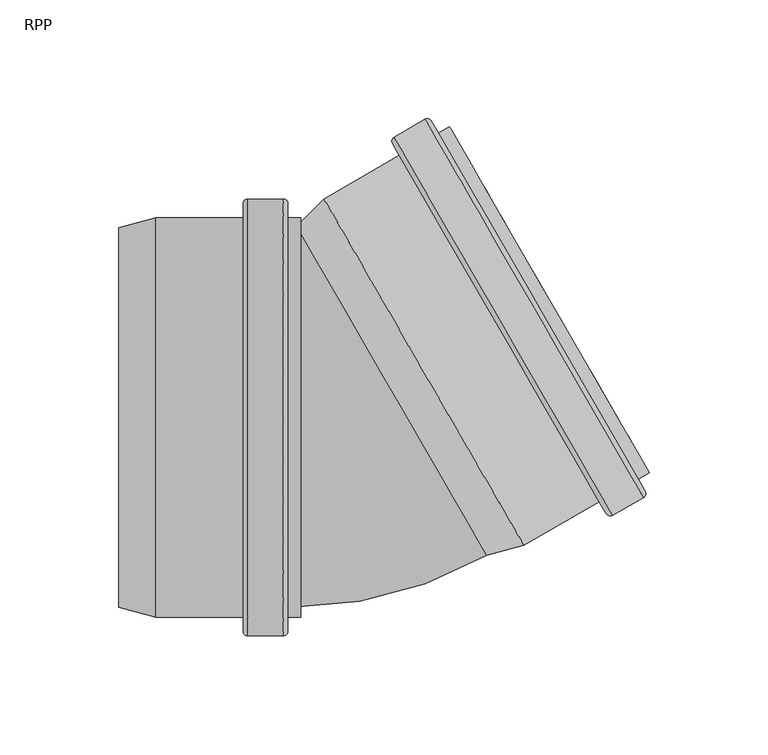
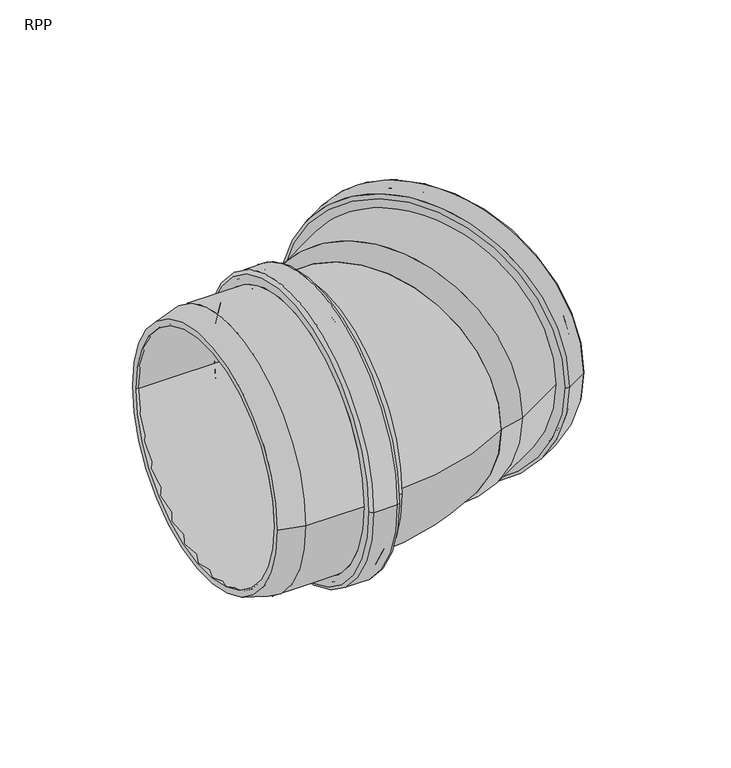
"""IFC4 building model written with IfcOpenShell, lengths in millimetres: pipe fitting geometry, RAUPIANO PLUS Bend : RPP."""

from ifc_helpers import new_model, si_unit, point, frame, origin, place, context, project, spatial, polyline, circle_curve, ellipse_curve, trimmed, source, transform, mapped, element, save
from ifc_brep_helpers import plane_surface, cylinder_surface, revolved_surface, advanced_brep


def rpp_96adb8f6(model_context):
    return source(origin(), model_context, "Body", "AdvancedBrep", [
        advanced_brep(
        [(-39.2077322, -80.3, 0.0), (-39.2077322, 80.3, 0.0), (-79.319674, 80.3, 0.0), (-79.319674, -80.3, 0.0), (-38.7077322, -88.1, 0.0), (-38.7077322, 88.1, 0.0), (-39.2077322, 87.6, 0.0), (-39.2077322, -87.6, 0.0), (-28.6077322, -88.1, 0.0), (-28.6077322, 88.1, 0.0), (-28.1077322, -87.6, 0.0), (-28.1077322, 87.6, 0.0), (-18.8077322, -80.3, 0.0), (-18.8077322, 80.3, 0.0), (-28.1077322, 80.3, 0.0), (-28.1077322, -80.3, 0.0), (-24.2077322, -84.2, 0.0), (-24.2077322, 84.2, 0.0), (-18.8077322, 84.2, 0.0), (-18.8077322, -84.2, 0.0), (-26.2077322, -92.0, 0.0), (-26.2077322, 92.0, 0.0), (-24.2077322, 90.0, 0.0), (-24.2077322, -90.0, 0.0), (-41.1077322, -92.0, 0.0), (-41.1077322, 92.0, 0.0), (-43.1077322, -90.0, 0.0), (-43.1077322, 90.0, 0.0), (-79.8331188, -84.2, 0.0), (-79.8331188, 84.2, 0.0), (-43.1077322, 84.2, 0.0), (-43.1077322, -84.2, 0.0), (-95.5077322, -80.0, 0.0), (-95.5077322, 80.0, 0.0), (-95.5077322, 75.9624229, 0.0), (-95.5077322, -75.9624229, 0.0)],
        [
            (0, 1, circle_curve(frame((-39.2077322, 0.0, 0.0), z_axis=(1.0, 0.0, 0.0), x_axis=(0.0, 1.0, 0.0)), 80.3)),
            (1, 2),
            (2, 3, circle_curve(frame((-79.319674, 0.0, 0.0), z_axis=(-1.0, 0.0, 0.0), x_axis=(0.0, 1.0, 0.0)), 80.3)),
            (3, 0),
            (4, 5, circle_curve(frame((-38.7077322, 0.0, 0.0), z_axis=(1.0, 0.0, 0.0), x_axis=(0.0, 1.0, 0.0)), 88.1)),
            (5, 6, circle_curve(frame((-38.7077322, 87.6, 0.0), z_axis=(0.0, 0.0, 1.0), x_axis=(0.0, -1.0, 0.0)), 0.5)),
            (6, 7, circle_curve(frame((-39.2077322, 0.0, 0.0), z_axis=(-1.0, 0.0, 0.0), x_axis=(0.0, 1.0, 0.0)), 87.6)),
            (7, 4, circle_curve(frame((-38.7077322, -87.6, 0.0), z_axis=(0.0, 0.0, 1.0), x_axis=(0.0, 1.0, 0.0)), 0.5)),
            (8, 9, circle_curve(frame((-28.6077322, 0.0, 0.0), z_axis=(1.0, 0.0, 0.0), x_axis=(0.0, 1.0, 0.0)), 88.1)),
            (9, 5),
            (4, 8),
            (10, 11, circle_curve(frame((-28.1077322, 0.0, 0.0), z_axis=(1.0, 0.0, 0.0), x_axis=(0.0, 1.0, 0.0)), 87.6)),
            (11, 9, circle_curve(frame((-28.6077322, 87.6, 0.0), z_axis=(0.0, 0.0, 1.0), x_axis=(0.0, -1.0, 0.0)), 0.5)),
            (8, 10, circle_curve(frame((-28.6077322, -87.6, 0.0), z_axis=(0.0, 0.0, 1.0), x_axis=(0.0, 1.0, 0.0)), 0.5)),
            (12, 13, circle_curve(frame((-18.8077322, 0.0, 0.0), z_axis=(1.0, 0.0, 0.0), x_axis=(0.0, 1.0, 0.0)), 80.3)),
            (13, 14),
            (14, 15, circle_curve(frame((-28.1077322, 0.0, 0.0), z_axis=(-1.0, 0.0, 0.0), x_axis=(0.0, 1.0, 0.0)), 80.3)),
            (15, 12),
            (16, 17, circle_curve(frame((-24.2077322, 0.0, 0.0), z_axis=(1.0, 0.0, 0.0), x_axis=(0.0, 1.0, 0.0)), 84.2)),
            (17, 18),
            (18, 19, circle_curve(frame((-18.8077322, 0.0, 0.0), z_axis=(-1.0, 0.0, 0.0), x_axis=(0.0, 1.0, 0.0)), 84.2)),
            (19, 16),
            (20, 21, circle_curve(frame((-26.2077322, 0.0, 0.0), z_axis=(1.0, 0.0, 0.0), x_axis=(0.0, 1.0, 0.0)), 92.0)),
            (21, 22, circle_curve(frame((-26.2077322, 90.0, 0.0), z_axis=(0.0, 0.0, -1.0), x_axis=(0.0, -1.0, 0.0)), 2.0)),
            (22, 23, circle_curve(frame((-24.2077322, 0.0, 0.0), z_axis=(-1.0, 0.0, 0.0), x_axis=(0.0, 1.0, 0.0)), 90.0)),
            (23, 20, circle_curve(frame((-26.2077322, -90.0, 0.0), z_axis=(0.0, 0.0, -1.0), x_axis=(0.0, 1.0, 0.0)), 2.0)),
            (24, 25, circle_curve(frame((-41.1077322, 0.0, 0.0), z_axis=(1.0, 0.0, 0.0), x_axis=(0.0, 1.0, 0.0)), 92.0)),
            (25, 21),
            (20, 24),
            (26, 27, circle_curve(frame((-43.1077322, 0.0, 0.0), z_axis=(1.0, 0.0, 0.0), x_axis=(0.0, 1.0, 0.0)), 90.0)),
            (27, 25, circle_curve(frame((-41.1077322, 90.0, 0.0), z_axis=(0.0, 0.0, -1.0), x_axis=(0.0, -1.0, 0.0)), 2.0)),
            (24, 26, circle_curve(frame((-41.1077322, -90.0, 0.0), z_axis=(0.0, 0.0, -1.0), x_axis=(0.0, 1.0, 0.0)), 2.0)),
            (28, 29, circle_curve(frame((-79.8331188, 0.0, 0.0), z_axis=(1.0, 0.0, 0.0), x_axis=(0.0, 1.0, 0.0)), 84.2)),
            (29, 30),
            (30, 31, circle_curve(frame((-43.1077322, 0.0, 0.0), z_axis=(-1.0, 0.0, 0.0), x_axis=(0.0, 1.0, 0.0)), 84.2)),
            (31, 28),
            (32, 33, circle_curve(frame((-95.5077322, 0.0, 0.0), z_axis=(1.0, 0.0, 0.0), x_axis=(0.0, 1.0, 0.0)), 80.0)),
            (33, 29),
            (28, 32),
            (2, 34),
            (34, 35, circle_curve(frame((-95.5077322, 0.0, 0.0), z_axis=(-1.0, 0.0, 0.0), x_axis=(0.0, 1.0, 0.0)), 75.9624229)),
            (35, 3),
            (1, 0, circle_curve(frame((-39.2077322, 0.0, 0.0), z_axis=(1.0, 0.0, 0.0), x_axis=(0.0, -1.0, 0.0)), 80.3)),
            (3, 2, circle_curve(frame((-79.319674, 0.0, 0.0), z_axis=(-1.0, 0.0, 0.0), x_axis=(0.0, -1.0, 0.0)), 80.3)),
            (6, 7, circle_curve(frame((-39.2077322, 0.0, 0.0), z_axis=(1.0, 0.0, 0.0), x_axis=(0.0, -1.0, 0.0)), 87.6)),
            (5, 4, circle_curve(frame((-38.7077322, 0.0, 0.0), z_axis=(1.0, 0.0, 0.0), x_axis=(0.0, -1.0, 0.0)), 88.1)),
            (9, 8, circle_curve(frame((-28.6077322, 0.0, 0.0), z_axis=(1.0, 0.0, 0.0), x_axis=(0.0, -1.0, 0.0)), 88.1)),
            (11, 10, circle_curve(frame((-28.1077322, 0.0, 0.0), z_axis=(1.0, 0.0, 0.0), x_axis=(0.0, -1.0, 0.0)), 87.6)),
            (14, 15, circle_curve(frame((-28.1077322, 0.0, 0.0), z_axis=(1.0, 0.0, 0.0), x_axis=(0.0, -1.0, 0.0)), 80.3)),
            (13, 12, circle_curve(frame((-18.8077322, 0.0, 0.0), z_axis=(1.0, 0.0, 0.0), x_axis=(0.0, -1.0, 0.0)), 80.3)),
            (18, 19, circle_curve(frame((-18.8077322, 0.0, 0.0), z_axis=(1.0, 0.0, 0.0), x_axis=(0.0, -1.0, 0.0)), 84.2)),
            (17, 16, circle_curve(frame((-24.2077322, 0.0, 0.0), z_axis=(1.0, 0.0, 0.0), x_axis=(0.0, -1.0, 0.0)), 84.2)),
            (22, 23, circle_curve(frame((-24.2077322, 0.0, 0.0), z_axis=(1.0, 0.0, 0.0), x_axis=(0.0, -1.0, 0.0)), 90.0)),
            (21, 20, circle_curve(frame((-26.2077322, 0.0, 0.0), z_axis=(1.0, 0.0, 0.0), x_axis=(0.0, -1.0, 0.0)), 92.0)),
            (25, 24, circle_curve(frame((-41.1077322, 0.0, 0.0), z_axis=(1.0, 0.0, 0.0), x_axis=(0.0, -1.0, 0.0)), 92.0)),
            (27, 26, circle_curve(frame((-43.1077322, 0.0, 0.0), z_axis=(1.0, 0.0, 0.0), x_axis=(0.0, -1.0, 0.0)), 90.0)),
            (30, 31, circle_curve(frame((-43.1077322, 0.0, 0.0), z_axis=(1.0, 0.0, 0.0), x_axis=(0.0, -1.0, 0.0)), 84.2)),
            (29, 28, circle_curve(frame((-79.8331188, 0.0, 0.0), z_axis=(1.0, 0.0, 0.0), x_axis=(0.0, -1.0, 0.0)), 84.2)),
            (33, 32, circle_curve(frame((-95.5077322, 0.0, 0.0), z_axis=(1.0, 0.0, 0.0), x_axis=(0.0, -1.0, 0.0)), 80.0)),
            (34, 35, circle_curve(frame((-95.5077322, 0.0, 0.0), z_axis=(1.0, 0.0, 0.0), x_axis=(0.0, -1.0, 0.0)), 75.9624229)),
        ],
        [
            revolved_surface(polyline([(-79.319674, 80.3, 0.0), (-39.2077322, 80.3, 0.0)]), (-95.5077322, 0.0, 0.0), (-1.0, 0.0, 0.0)),
            revolved_surface(trimmed(ellipse_curve(frame((-38.7077322, 87.6, 0.0), z_axis=(0.0, 0.0, -1.0), x_axis=(0.0, -1.0, 0.0)), 0.5, 0.5), [point((-39.2077322, 87.6, 0.0))], [point((-38.7077322, 88.1, 0.0))], True, "CARTESIAN"), (-95.5077322, 0.0, 0.0), (-1.0, 0.0, 0.0)),
            revolved_surface(polyline([(-38.7077322, 88.1, 0.0), (-28.6077322, 88.1, 0.0)]), (-95.5077322, 0.0, 0.0), (-1.0, 0.0, 0.0)),
            revolved_surface(trimmed(ellipse_curve(frame((-28.6077322, 87.6, 0.0), z_axis=(0.0, 0.0, -1.0), x_axis=(0.0, -1.0, 0.0)), 0.5, 0.5), [point((-28.6077322, 88.1, 0.0))], [point((-28.1077322, 87.6, 0.0))], True, "CARTESIAN"), (-95.5077322, 0.0, 0.0), (-1.0, 0.0, 0.0)),
            revolved_surface(polyline([(-28.1077322, 80.3, 0.0), (-18.807732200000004, 80.3, 0.0)]), (-95.5077322, 0.0, 0.0), (-1.0, 0.0, 0.0)),
            cylinder_surface(frame((-95.5077322, 0.0, 0.0), z_axis=(-1.0, 0.0, 0.0), x_axis=(0.0, 1.0, 0.0)), 84.2),
            revolved_surface(trimmed(ellipse_curve(frame((-26.2077322, 90.0, 0.0), z_axis=(0.0, 0.0, 1.0), x_axis=(0.0, -1.0, 0.0)), 2.0, 2.0), [point((-24.2077322, 90.0, 0.0))], [point((-26.2077322, 92.0, 0.0))], True, "CARTESIAN"), (-95.5077322, 0.0, 0.0), (-1.0, 0.0, 0.0)),
            cylinder_surface(frame((-95.5077322, 0.0, 0.0), z_axis=(-1.0, 0.0, 0.0), x_axis=(0.0, 1.0, 0.0)), 92.0),
            revolved_surface(trimmed(ellipse_curve(frame((-41.1077322, 90.0, 0.0), z_axis=(0.0, 0.0, 1.0), x_axis=(0.0, -1.0, 0.0)), 2.0, 2.0), [point((-41.1077322, 92.0, 0.0))], [point((-43.1077322, 90.0, 0.0))], True, "CARTESIAN"), (-95.5077322, 0.0, 0.0), (-1.0, 0.0, 0.0)),
            revolved_surface(polyline([(-79.8331188, 84.2, 0.0), (-95.5077322, 80.0, 0.0)]), (-95.5077322, 0.0, 0.0), (-1.0, 0.0, 0.0)),
            revolved_surface(polyline([(-95.5077322, 75.9624229, 0.0), (-79.319674, 80.3, 0.0)]), (-95.5077322, 0.0, 0.0), (-1.0, 0.0, 0.0)),
            revolved_surface(polyline([(-79.319674, -80.3, 0.0), (-39.2077322, -80.3, 0.0)]), (-95.5077322, 0.0, 0.0), (-1.0, 0.0, 0.0)),
            plane_surface(frame((-39.2077322, 0.0, 0.0), z_axis=(1.0, 0.0, 0.0), x_axis=(0.0, -1.0, 0.0))),
            revolved_surface(trimmed(ellipse_curve(frame((-38.7077322, -87.6, 0.0), z_axis=(0.0, 0.0, 1.0), x_axis=(0.0, 1.0, 0.0)), 0.5, 0.5), [point((-39.2077322, -87.6, 0.0))], [point((-38.7077322, -88.1, 0.0))], True, "CARTESIAN"), (-95.5077322, 0.0, 0.0), (-1.0, 0.0, 0.0)),
            revolved_surface(polyline([(-38.7077322, -88.1, 0.0), (-28.6077322, -88.1, 0.0)]), (-95.5077322, 0.0, 0.0), (-1.0, 0.0, 0.0)),
            revolved_surface(trimmed(ellipse_curve(frame((-28.6077322, -87.6, 0.0), z_axis=(0.0, 0.0, 1.0), x_axis=(0.0, 1.0, 0.0)), 0.5, 0.5), [point((-28.6077322, -88.1, 0.0))], [point((-28.1077322, -87.6, 0.0))], True, "CARTESIAN"), (-95.5077322, 0.0, 0.0), (-1.0, 0.0, 0.0)),
            plane_surface(frame((-28.1077322, 0.0, 0.0), z_axis=(-1.0, 0.0, 0.0), x_axis=(0.0, -1.0, 0.0))),
            revolved_surface(polyline([(-28.1077322, -80.3, 0.0), (-18.807732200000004, -80.3, 0.0)]), (-95.5077322, 0.0, 0.0), (-1.0, 0.0, 0.0)),
            plane_surface(frame((-18.8077322, 0.0, 0.0), z_axis=(1.0, 0.0, 0.0), x_axis=(0.0, -1.0, 0.0))),
            cylinder_surface(frame((-95.5077322, 0.0, 0.0), z_axis=(-1.0, 0.0, 0.0), x_axis=(0.0, -1.0, 0.0)), 84.2),
            plane_surface(frame((-24.2077322, 0.0, 0.0), z_axis=(1.0, 0.0, 0.0), x_axis=(0.0, -1.0, 0.0))),
            revolved_surface(trimmed(ellipse_curve(frame((-26.2077322, -90.0, 0.0), z_axis=(0.0, 0.0, -1.0), x_axis=(0.0, 1.0, 0.0)), 2.0, 2.0), [point((-24.2077322, -90.0, 0.0))], [point((-26.2077322, -92.0, 0.0))], True, "CARTESIAN"), (-95.5077322, 0.0, 0.0), (-1.0, 0.0, 0.0)),
            cylinder_surface(frame((-95.5077322, 0.0, 0.0), z_axis=(-1.0, 0.0, 0.0), x_axis=(0.0, -1.0, 0.0)), 92.0),
            revolved_surface(trimmed(ellipse_curve(frame((-41.1077322, -90.0, 0.0), z_axis=(0.0, 0.0, -1.0), x_axis=(0.0, 1.0, 0.0)), 2.0, 2.0), [point((-41.1077322, -92.0, 0.0))], [point((-43.1077322, -90.0, 0.0))], True, "CARTESIAN"), (-95.5077322, 0.0, 0.0), (-1.0, 0.0, 0.0)),
            plane_surface(frame((-43.1077322, 0.0, 0.0), z_axis=(-1.0, 0.0, 0.0), x_axis=(0.0, -1.0, 0.0))),
            revolved_surface(polyline([(-79.8331188, -84.2, 0.0), (-95.5077322, -80.0, 0.0)]), (-95.5077322, 0.0, 0.0), (-1.0, 0.0, 0.0)),
            plane_surface(frame((-95.5077322, 0.0, 0.0), z_axis=(-1.0, 0.0, 0.0), x_axis=(0.0, -1.0, 0.0))),
            revolved_surface(polyline([(-95.5077322, -75.9624229, 0.0), (-79.319674, -80.3, 0.0)]), (-95.5077322, 0.0, 0.0), (-1.0, 0.0, 0.0)),
        ],
        [
            (0, [[1, 2, 3, 4]]),
            (1, [[5, 6, 7, 8]]),
            (2, [[9, 10, -5, 11]]),
            (3, [[12, 13, -9, 14]]),
            (4, [[15, 16, 17, 18]]),
            (5, [[19, 20, 21, 22]]),
            (6, [[23, 24, 25, 26]]),
            (7, [[27, 28, -23, 29]]),
            (8, [[30, 31, -27, 32]]),
            (5, [[33, 34, 35, 36]]),
            (9, [[37, 38, -33, 39]]),
            (10, [[-3, 40, 41, 42]]),
            (11, [[43, -4, 44, -2]]),
            (12, [[45, -7], [-43, -1]]),
            (13, [[46, -8, -45, -6]]),
            (14, [[47, -11, -46, -10]]),
            (15, [[48, -14, -47, -13]]),
            (16, [[-48, -12], [49, -17]]),
            (17, [[50, -18, -49, -16]]),
            (18, [[51, -21], [-50, -15]]),
            (19, [[52, -22, -51, -20]]),
            (20, [[53, -25], [-52, -19]]),
            (21, [[54, -26, -53, -24]]),
            (22, [[55, -29, -54, -28]]),
            (23, [[56, -32, -55, -31]]),
            (24, [[-56, -30], [57, -35]]),
            (19, [[58, -36, -57, -34]]),
            (25, [[59, -39, -58, -38]]),
            (26, [[-59, -37], [60, -41]]),
            (27, [[-44, -42, -60, -40]]),
        ],
    ),
        advanced_brep(
        [(57.4734793, -54.5315219, 0.0), (-18.4889436, 77.039254, 0.0), (-6.6384626, 88.8897351, 0.0), (73.6615374, -50.1939448, 0.0), (75.1668812, -53.8281662, 0.0), (-9.0331188, 92.0105118, 0.0), (-20.5077322, 80.5358984, 0.0), (59.4922678, -58.0281662, 0.0), (106.971999, -35.4654729, 0.0), (22.771999, 110.3732051, 0.0), (125.5078283, -33.7704711, 0.0), (33.5078283, 125.5782032, 0.0), (20.6040498, 118.1282032, 0.0), (112.6040498, -41.2204711, 0.0), (128.0164163, -23.3154729, 0.0), (43.8164163, 122.5232051, 0.0), (39.1398791, 119.8232051, 0.0), (123.3398791, -26.0154729, 0.0), (118.0123801, -24.5879738, 0.0), (37.7123801, 114.495706, 0.0), (45.7664163, 119.145706, 0.0), (126.0664163, -19.9379738, 0.0), (112.7325108, -36.642972, 0.0), (24.6325108, 115.9507042, 0.0), (33.3793673, 121.0007042, 0.0), (121.4793673, -31.592972, 0.0), (28.0994981, 108.945706, 0.0), (108.3994981, -30.1379738, 0.0), (19.871999, 115.3961524, 0.0), (109.871999, -40.4884203, 0.0), (126.2398791, -31.0384203, 0.0), (36.2398791, 124.8461524, 0.0), (34.0623801, 120.8176915, 0.0), (121.6623801, -30.9099593, 0.0), (112.0494981, -36.4599593, 0.0), (24.4494981, 115.2676915, 0.0)],
        [
            (0, 1, circle_curve(frame((19.4922678, 11.2538661, 0.0), z_axis=(-0.8660254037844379, -0.5000000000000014, 0.0), x_axis=(-0.5000000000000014, 0.8660254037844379, 0.0)), 75.9624229)),
            (1, 2),
            (2, 3, circle_curve(frame((33.5115374, 19.3478951, 0.0), z_axis=(0.8660254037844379, 0.5000000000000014, 0.0), x_axis=(-0.5000000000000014, 0.8660254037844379, 0.0)), 80.3)),
            (3, 0),
            (4, 5, circle_curve(frame((33.0668812, 19.0911728, 0.0), z_axis=(-0.8660254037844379, -0.5000000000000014, 0.0), x_axis=(-0.5000000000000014, 0.8660254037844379, 0.0)), 84.2)),
            (5, 6),
            (6, 7, circle_curve(frame((19.4922678, 11.2538661, 0.0), z_axis=(0.8660254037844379, 0.5000000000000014, 0.0), x_axis=(-0.5000000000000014, 0.8660254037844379, 0.0)), 80.0)),
            (7, 4),
            (8, 9, circle_curve(frame((64.871999, 37.4538661, 0.0), z_axis=(-0.8660254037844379, -0.5000000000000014, 0.0), x_axis=(-0.5000000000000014, 0.8660254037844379, 0.0)), 84.2)),
            (9, 5),
            (4, 8),
            (10, 11, circle_curve(frame((79.5078283, 45.9038661, 0.0), z_axis=(-0.8660254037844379, -0.5000000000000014, 0.0), x_axis=(-0.5000000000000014, 0.8660254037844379, 0.0)), 92.0)),
            (11, 12),
            (12, 13, circle_curve(frame((66.6040498, 38.4538661, 0.0), z_axis=(0.8660254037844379, 0.5000000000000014, 0.0), x_axis=(-0.5000000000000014, 0.8660254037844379, 0.0)), 92.0)),
            (13, 10),
            (14, 15, circle_curve(frame((85.9164163, 49.6038661, 0.0), z_axis=(-0.8660254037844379, -0.5000000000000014, 0.0), x_axis=(-0.5000000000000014, 0.8660254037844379, 0.0)), 84.2)),
            (15, 16),
            (16, 17, circle_curve(frame((81.2398791, 46.9038661, 0.0), z_axis=(0.8660254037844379, 0.5000000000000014, 0.0), x_axis=(-0.5000000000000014, 0.8660254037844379, 0.0)), 84.2)),
            (17, 14),
            (18, 19, circle_curve(frame((77.8623801, 44.9538661, 0.0), z_axis=(-0.8660254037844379, -0.5000000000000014, 0.0), x_axis=(-0.5000000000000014, 0.8660254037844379, 0.0)), 80.3)),
            (19, 20),
            (20, 21, circle_curve(frame((85.9164163, 49.6038661, 0.0), z_axis=(0.8660254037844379, 0.5000000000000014, 0.0), x_axis=(-0.5000000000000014, 0.8660254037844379, 0.0)), 80.3)),
            (21, 18),
            (22, 23, circle_curve(frame((68.6825108, 39.6538661, 0.0), z_axis=(-0.8660254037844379, -0.5000000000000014, 0.0), x_axis=(-0.5000000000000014, 0.8660254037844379, 0.0)), 88.1)),
            (23, 24),
            (24, 25, circle_curve(frame((77.4293673, 44.7038661, 0.0), z_axis=(0.8660254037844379, 0.5000000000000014, 0.0), x_axis=(-0.5000000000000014, 0.8660254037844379, 0.0)), 88.1)),
            (25, 22),
            (2, 26),
            (26, 27, circle_curve(frame((68.2494981, 39.4038661, 0.0), z_axis=(0.8660254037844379, 0.5000000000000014, 0.0), x_axis=(-0.5000000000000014, 0.8660254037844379, 0.0)), 80.3)),
            (27, 3),
            (1, 0, circle_curve(frame((19.4922678, 11.2538661, 0.0), z_axis=(-0.8660254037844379, -0.5000000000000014, 0.0), x_axis=(0.5000000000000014, -0.8660254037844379, 0.0)), 75.9624229)),
            (3, 2, circle_curve(frame((33.5115374, 19.3478951, 0.0), z_axis=(0.8660254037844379, 0.5000000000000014, 0.0), x_axis=(0.5000000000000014, -0.8660254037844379, 0.0)), 80.3)),
            (6, 7, circle_curve(frame((19.4922678, 11.2538661, 0.0), z_axis=(-0.8660254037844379, -0.5000000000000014, 0.0), x_axis=(0.5000000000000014, -0.8660254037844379, 0.0)), 80.0)),
            (5, 4, circle_curve(frame((33.0668812, 19.0911728, 0.0), z_axis=(-0.8660254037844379, -0.5000000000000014, 0.0), x_axis=(0.5000000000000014, -0.8660254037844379, 0.0)), 84.2)),
            (9, 8, circle_curve(frame((64.871999, 37.4538661, 0.0), z_axis=(-0.8660254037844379, -0.5000000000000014, 0.0), x_axis=(0.5000000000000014, -0.8660254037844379, 0.0)), 84.2)),
            (28, 29, circle_curve(frame((64.871999, 37.4538661, 0.0), z_axis=(-0.8660254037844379, -0.5000000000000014, 0.0), x_axis=(0.5000000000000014, -0.8660254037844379, 0.0)), 90.0)),
            (29, 28, circle_curve(frame((64.871999, 37.4538661, 0.0), z_axis=(-0.8660254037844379, -0.5000000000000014, 0.0), x_axis=(-0.5000000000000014, 0.8660254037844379, 0.0)), 90.0)),
            (11, 10, circle_curve(frame((79.5078283, 45.9038661, 0.0), z_axis=(-0.8660254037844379, -0.5000000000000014, 0.0), x_axis=(0.5000000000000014, -0.8660254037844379, 0.0)), 92.0)),
            (13, 12, circle_curve(frame((66.6040498, 38.4538661, 0.0), z_axis=(0.8660254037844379, 0.5000000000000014, 0.0), x_axis=(0.5000000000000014, -0.8660254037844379, 0.0)), 92.0)),
            (30, 31, circle_curve(frame((81.2398791, 46.9038661, 0.0), z_axis=(0.8660254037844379, 0.5000000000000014, 0.0), x_axis=(0.5000000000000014, -0.8660254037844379, 0.0)), 90.0)),
            (31, 30, circle_curve(frame((81.2398791, 46.9038661, 0.0), z_axis=(0.8660254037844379, 0.5000000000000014, 0.0), x_axis=(-0.5000000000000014, 0.8660254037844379, 0.0)), 90.0)),
            (16, 17, circle_curve(frame((81.2398791, 46.9038661, 0.0), z_axis=(-0.8660254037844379, -0.5000000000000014, 0.0), x_axis=(0.5000000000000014, -0.8660254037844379, 0.0)), 84.2)),
            (15, 14, circle_curve(frame((85.9164163, 49.6038661, 0.0), z_axis=(-0.8660254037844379, -0.5000000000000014, 0.0), x_axis=(0.5000000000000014, -0.8660254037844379, 0.0)), 84.2)),
            (20, 21, circle_curve(frame((85.9164163, 49.6038661, 0.0), z_axis=(-0.8660254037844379, -0.5000000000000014, 0.0), x_axis=(0.5000000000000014, -0.8660254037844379, 0.0)), 80.3)),
            (19, 18, circle_curve(frame((77.8623801, 44.9538661, 0.0), z_axis=(-0.8660254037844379, -0.5000000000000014, 0.0), x_axis=(0.5000000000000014, -0.8660254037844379, 0.0)), 80.3)),
            (32, 33, circle_curve(frame((77.8623801, 44.9538661, 0.0), z_axis=(-0.8660254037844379, -0.5000000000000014, 0.0), x_axis=(0.5000000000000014, -0.8660254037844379, 0.0)), 87.6)),
            (33, 32, circle_curve(frame((77.8623801, 44.9538661, 0.0), z_axis=(-0.8660254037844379, -0.5000000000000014, 0.0), x_axis=(-0.5000000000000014, 0.8660254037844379, 0.0)), 87.6)),
            (23, 22, circle_curve(frame((68.6825108, 39.6538661, 0.0), z_axis=(-0.8660254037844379, -0.5000000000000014, 0.0), x_axis=(0.5000000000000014, -0.8660254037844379, 0.0)), 88.1)),
            (25, 24, circle_curve(frame((77.4293673, 44.7038661, 0.0), z_axis=(0.8660254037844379, 0.5000000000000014, 0.0), x_axis=(0.5000000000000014, -0.8660254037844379, 0.0)), 88.1)),
            (34, 35, circle_curve(frame((68.2494981, 39.4038661, 0.0), z_axis=(0.8660254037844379, 0.5000000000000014, 0.0), x_axis=(0.5000000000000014, -0.8660254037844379, 0.0)), 87.6)),
            (35, 34, circle_curve(frame((68.2494981, 39.4038661, 0.0), z_axis=(0.8660254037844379, 0.5000000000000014, 0.0), x_axis=(-0.5000000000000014, 0.8660254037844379, 0.0)), 87.6)),
            (26, 27, circle_curve(frame((68.2494981, 39.4038661, 0.0), z_axis=(-0.8660254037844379, -0.5000000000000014, 0.0), x_axis=(0.5000000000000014, -0.8660254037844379, 0.0)), 80.3)),
            (12, 28, circle_curve(frame((21.6040498, 116.3961524, 0.0), z_axis=(0.0, 0.0, 1.0000000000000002), x_axis=(0.5000000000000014, -0.8660254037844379, 0.0)), 2.0)),
            (29, 13, circle_curve(frame((111.6040498, -39.4884203, 0.0), z_axis=(0.0, 0.0, 1.0000000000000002), x_axis=(-0.5000000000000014, 0.8660254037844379, 0.0)), 2.0)),
            (31, 11, circle_curve(frame((34.5078283, 123.8461524, 0.0), z_axis=(0.0, 0.0, 1.0000000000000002), x_axis=(0.5000000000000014, -0.8660254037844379, 0.0)), 2.0)),
            (10, 30, circle_curve(frame((124.5078283, -32.0384203, 0.0), z_axis=(0.0, 0.0, 1.0000000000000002), x_axis=(-0.5000000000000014, 0.8660254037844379, 0.0)), 2.0)),
            (24, 32, circle_curve(frame((33.6293673, 120.5676915, 0.0), z_axis=(0.0, 0.0, -1.0000000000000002), x_axis=(0.5000000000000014, -0.8660254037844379, 0.0)), 0.5)),
            (33, 25, circle_curve(frame((121.2293673, -31.1599593, 0.0), z_axis=(0.0, 0.0, -1.0000000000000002), x_axis=(-0.5000000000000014, 0.8660254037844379, 0.0)), 0.5)),
            (35, 23, circle_curve(frame((24.8825108, 115.5176915, 0.0), z_axis=(0.0, 0.0, -1.0000000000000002), x_axis=(0.5000000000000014, -0.8660254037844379, 0.0)), 0.5)),
            (22, 34, circle_curve(frame((112.4825108, -36.2099593, 0.0), z_axis=(0.0, 0.0, -1.0000000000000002), x_axis=(-0.5000000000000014, 0.8660254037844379, 0.0)), 0.5)),
        ],
        [
            revolved_surface(polyline([(-6.6384626, 88.8897351, 0.0), (-18.4889436, 77.039254, 0.0)]), (19.4922678, 11.2538661, 0.0), (0.8660254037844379, 0.5000000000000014, 0.0)),
            revolved_surface(polyline([(-20.5077322, 80.5358984, 0.0), (-9.0331188, 92.0105118, 0.0)]), (19.4922678, 11.2538661, 0.0), (0.8660254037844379, 0.5000000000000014, 0.0)),
            cylinder_surface(frame((19.4922678, 11.2538661, 0.0), z_axis=(0.8660254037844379, 0.5000000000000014, 0.0), x_axis=(-0.5000000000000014, 0.8660254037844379, 0.0)), 84.2),
            cylinder_surface(frame((19.4922678, 11.2538661, 0.0), z_axis=(0.8660254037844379, 0.5000000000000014, 0.0), x_axis=(-0.5000000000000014, 0.8660254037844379, 0.0)), 92.0),
            revolved_surface(polyline([(45.766416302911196, 119.14570604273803, 0.0), (37.712380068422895, 114.49570605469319, 0.0)]), (19.4922678, 11.2538661, 0.0), (0.8660254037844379, 0.5000000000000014, 0.0)),
            revolved_surface(polyline([(33.37936731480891, 121.00070417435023, 0.0), (24.632510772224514, 115.95070419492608, 0.0)]), (19.4922678, 11.2538661, 0.0), (0.8660254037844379, 0.5000000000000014, 0.0)),
            revolved_surface(polyline([(28.099498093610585, 108.94570605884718, 0.0), (-6.638462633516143, 88.88973508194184, 0.0)]), (19.4922678, 11.2538661, 0.0), (0.8660254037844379, 0.5000000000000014, 0.0)),
            revolved_surface(polyline([(73.6615374, -50.1939448, 0.0), (57.4734793, -54.5315219, 0.0)]), (19.4922678, 11.2538661, 0.0), (0.8660254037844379, 0.5000000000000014, 0.0)),
            plane_surface(frame((19.4922678, 11.2538661, 0.0), z_axis=(-0.8660254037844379, -0.5000000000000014, 0.0), x_axis=(0.5000000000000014, -0.8660254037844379, 0.0))),
            revolved_surface(polyline([(59.4922678, -58.0281662, 0.0), (75.1668812, -53.8281662, 0.0)]), (19.4922678, 11.2538661, 0.0), (0.8660254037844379, 0.5000000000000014, 0.0)),
            cylinder_surface(frame((19.4922678, 11.2538661, 0.0), z_axis=(0.8660254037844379, 0.5000000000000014, 0.0), x_axis=(0.5000000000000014, -0.8660254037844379, 0.0)), 84.2),
            plane_surface(frame((64.871999, 37.4538661, 0.0), z_axis=(-0.8660254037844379, -0.5000000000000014, 0.0), x_axis=(0.5000000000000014, -0.8660254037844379, 0.0))),
            cylinder_surface(frame((19.4922678, 11.2538661, 0.0), z_axis=(0.8660254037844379, 0.5000000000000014, 0.0), x_axis=(0.5000000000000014, -0.8660254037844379, 0.0)), 92.0),
            plane_surface(frame((81.2398791, 46.9038661, 0.0), z_axis=(0.8660254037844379, 0.5000000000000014, 0.0), x_axis=(0.5000000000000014, -0.8660254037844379, 0.0))),
            plane_surface(frame((85.9164163, 49.6038661, 0.0), z_axis=(0.8660254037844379, 0.5000000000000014, 0.0), x_axis=(0.5000000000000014, -0.8660254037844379, 0.0))),
            revolved_surface(polyline([(126.06641630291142, -19.937973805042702, 0.0), (118.01238006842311, -24.587973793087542, 0.0)]), (19.4922678, 11.2538661, 0.0), (0.8660254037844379, 0.5000000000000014, 0.0)),
            plane_surface(frame((77.8623801, 44.9538661, 0.0), z_axis=(-0.8660254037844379, -0.5000000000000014, 0.0), x_axis=(0.5000000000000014, -0.8660254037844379, 0.0))),
            revolved_surface(polyline([(121.47936731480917, -31.592971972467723, 0.0), (112.73251077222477, -36.64297195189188, 0.0)]), (19.4922678, 11.2538661, 0.0), (0.8660254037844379, 0.5000000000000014, 0.0)),
            plane_surface(frame((68.2494981, 39.4038661, 0.0), z_axis=(0.8660254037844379, 0.5000000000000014, 0.0), x_axis=(0.5000000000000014, -0.8660254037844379, 0.0))),
            revolved_surface(polyline([(108.39949809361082, -30.137973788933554, 0.0), (73.66153736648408, -50.19394476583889, 0.0)]), (19.4922678, 11.2538661, 0.0), (0.8660254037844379, 0.5000000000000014, 0.0)),
            revolved_surface(trimmed(ellipse_curve(frame((21.6040498, 116.3961524, 0.0), z_axis=(0.0, 0.0, -1.0000000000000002), x_axis=(0.5000000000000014, -0.8660254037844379, 0.0)), 2.0, 2.0), [point((19.871999, 115.3961524, 0.0))], [point((20.6040498, 118.1282032, 0.0))], True, "CARTESIAN"), (19.4922678, 11.2538661, 0.0), (0.8660254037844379, 0.5000000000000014, 0.0)),
            revolved_surface(trimmed(ellipse_curve(frame((34.5078283, 123.8461524, 0.0), z_axis=(0.0, 0.0, -1.0000000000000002), x_axis=(0.5000000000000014, -0.8660254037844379, 0.0)), 2.0, 2.0), [point((33.5078283, 125.5782032, 0.0))], [point((36.2398791, 124.8461524, 0.0))], True, "CARTESIAN"), (19.4922678, 11.2538661, 0.0), (0.8660254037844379, 0.5000000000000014, 0.0)),
            revolved_surface(trimmed(ellipse_curve(frame((33.6293673, 120.5676915, 0.0), z_axis=(0.0, 0.0, 1.0000000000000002), x_axis=(0.5000000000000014, -0.8660254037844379, 0.0)), 0.5, 0.5), [point((34.0623801, 120.8176915, 0.0))], [point((33.3793673, 121.0007042, 0.0))], True, "CARTESIAN"), (19.4922678, 11.2538661, 0.0), (0.8660254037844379, 0.5000000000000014, 0.0)),
            revolved_surface(trimmed(ellipse_curve(frame((24.8825108, 115.5176915, 0.0), z_axis=(0.0, 0.0, 1.0000000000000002), x_axis=(0.5000000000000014, -0.8660254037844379, 0.0)), 0.5, 0.5), [point((24.6325108, 115.9507042, 0.0))], [point((24.4494981, 115.2676915, 0.0))], True, "CARTESIAN"), (19.4922678, 11.2538661, 0.0), (0.8660254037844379, 0.5000000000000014, 0.0)),
            revolved_surface(trimmed(ellipse_curve(frame((111.6040498, -39.4884203, 0.0), z_axis=(0.0, 0.0, 1.0000000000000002), x_axis=(-0.5000000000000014, 0.8660254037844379, 0.0)), 2.0, 2.0), [point((109.871999, -40.4884203, 0.0))], [point((112.6040498, -41.2204711, 0.0))], True, "CARTESIAN"), (19.4922678, 11.2538661, 0.0), (0.8660254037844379, 0.5000000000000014, 0.0)),
            revolved_surface(trimmed(ellipse_curve(frame((124.5078283, -32.0384203, 0.0), z_axis=(0.0, 0.0, 1.0000000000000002), x_axis=(-0.5000000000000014, 0.8660254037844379, 0.0)), 2.0, 2.0), [point((125.5078283, -33.7704711, 0.0))], [point((126.2398791, -31.0384203, 0.0))], True, "CARTESIAN"), (19.4922678, 11.2538661, 0.0), (0.8660254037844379, 0.5000000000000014, 0.0)),
            revolved_surface(trimmed(ellipse_curve(frame((121.2293673, -31.1599593, 0.0), z_axis=(0.0, 0.0, -1.0000000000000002), x_axis=(-0.5000000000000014, 0.8660254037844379, 0.0)), 0.5, 0.5), [point((121.6623801, -30.9099593, 0.0))], [point((121.4793673, -31.592972, 0.0))], True, "CARTESIAN"), (19.4922678, 11.2538661, 0.0), (0.8660254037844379, 0.5000000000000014, 0.0)),
            revolved_surface(trimmed(ellipse_curve(frame((112.4825108, -36.2099593, 0.0), z_axis=(0.0, 0.0, -1.0000000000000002), x_axis=(-0.5000000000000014, 0.8660254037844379, 0.0)), 0.5, 0.5), [point((112.7325108, -36.642972, 0.0))], [point((112.0494981, -36.4599593, 0.0))], True, "CARTESIAN"), (19.4922678, 11.2538661, 0.0), (0.8660254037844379, 0.5000000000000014, 0.0)),
        ],
        [
            (0, [[1, 2, 3, 4]]),
            (1, [[5, 6, 7, 8]]),
            (2, [[9, 10, -5, 11]]),
            (3, [[12, 13, 14, 15]]),
            (2, [[16, 17, 18, 19]]),
            (4, [[20, 21, 22, 23]]),
            (5, [[24, 25, 26, 27]]),
            (6, [[-3, 28, 29, 30]]),
            (7, [[31, -4, 32, -2]]),
            (8, [[33, -7], [-31, -1]]),
            (9, [[34, -8, -33, -6]]),
            (10, [[35, -11, -34, -10]]),
            (11, [[36, 37], [-35, -9]]),
            (12, [[38, -15, 39, -13]]),
            (13, [[40, 41], [42, -18]]),
            (10, [[43, -19, -42, -17]]),
            (14, [[-43, -16], [44, -22]]),
            (15, [[45, -23, -44, -21]]),
            (16, [[46, 47], [-45, -20]]),
            (17, [[48, -27, 49, -25]]),
            (18, [[50, 51], [52, -29]]),
            (19, [[-32, -30, -52, -28]]),
            (20, [[-14, 53, -37, 54]]),
            (21, [[-41, 55, -12, 56]]),
            (22, [[-26, 57, -47, 58]]),
            (23, [[-51, 59, -24, 60]]),
            (24, [[-39, -54, -36, -53]]),
            (25, [[-40, -56, -38, -55]]),
            (26, [[-49, -58, -46, -57]]),
            (27, [[-50, -60, -48, -59]]),
        ],
    ),
        advanced_brep(
        [(-22.5077322, 76.1, 0.0), (-22.5077322, -76.1, 0.0), (-95.5077322, -76.1, 0.0), (-95.5077322, 76.1, 0.0), (-83.9383747, 80.0, 0.0), (-83.9383747, -80.0, 0.0), (-22.5077322, -80.0, 0.0), (-22.5077322, 80.0, 0.0), (-95.5077322, 76.9, 0.0), (-95.5077322, -76.9, 0.0)],
        [
            (0, 1, circle_curve(frame((-22.5077322, 0.0, 0.0), z_axis=(1.0, 0.0, 0.0), x_axis=(0.0, -1.0, 0.0)), 76.1)),
            (1, 2),
            (2, 3, circle_curve(frame((-95.5077322, 0.0, 0.0), z_axis=(-1.0, 0.0, 0.0), x_axis=(0.0, -1.0, 0.0)), 76.1)),
            (3, 0),
            (4, 5, circle_curve(frame((-83.9383747, 0.0, 0.0), z_axis=(1.0, 0.0, 0.0), x_axis=(0.0, -1.0, 0.0)), 80.0)),
            (5, 6),
            (6, 7, circle_curve(frame((-22.5077322, 0.0, 0.0), z_axis=(-1.0, 0.0, 0.0), x_axis=(0.0, -1.0, 0.0)), 80.0)),
            (7, 4),
            (8, 9, circle_curve(frame((-95.5077322, 0.0, 0.0), z_axis=(1.0, 0.0, 0.0), x_axis=(0.0, -1.0, 0.0)), 76.9)),
            (9, 5),
            (4, 8),
            (1, 0, circle_curve(frame((-22.5077322, 0.0, 0.0), z_axis=(1.0, 0.0, 0.0), x_axis=(0.0, 1.0, 0.0)), 76.1)),
            (3, 2, circle_curve(frame((-95.5077322, 0.0, 0.0), z_axis=(-1.0, 0.0, 0.0), x_axis=(0.0, 1.0, 0.0)), 76.1)),
            (6, 7, circle_curve(frame((-22.5077322, 0.0, 0.0), z_axis=(1.0, 0.0, 0.0), x_axis=(0.0, 1.0, 0.0)), 80.0)),
            (5, 4, circle_curve(frame((-83.9383747, 0.0, 0.0), z_axis=(1.0, 0.0, 0.0), x_axis=(0.0, 1.0, 0.0)), 80.0)),
            (9, 8, circle_curve(frame((-95.5077322, 0.0, 0.0), z_axis=(1.0, 0.0, 0.0), x_axis=(0.0, 1.0, 0.0)), 76.9)),
        ],
        [
            revolved_surface(polyline([(-95.50773219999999, -76.1, 0.0), (-22.5077322, -76.1, 0.0)]), (-22.5077322, 0.0, 0.0), (-1.0, 0.0, 0.0)),
            cylinder_surface(frame((-22.5077322, 0.0, 0.0), z_axis=(-1.0, 0.0, 0.0), x_axis=(0.0, -1.0, 0.0)), 80.0),
            revolved_surface(polyline([(-83.9383747, -80.0, 0.0), (-95.5077322, -76.9, 0.0)]), (-22.5077322, 0.0, 0.0), (-1.0, 0.0, 0.0)),
            revolved_surface(polyline([(-95.50773219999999, 76.1, 0.0), (-22.5077322, 76.1, 0.0)]), (-22.5077322, 0.0, 0.0), (-1.0, 0.0, 0.0)),
            plane_surface(frame((-22.5077322, 0.0, 0.0), z_axis=(1.0, 0.0, 0.0), x_axis=(0.0, 1.0, 0.0))),
            cylinder_surface(frame((-22.5077322, 0.0, 0.0), z_axis=(-1.0, 0.0, 0.0), x_axis=(0.0, 1.0, 0.0)), 80.0),
            revolved_surface(polyline([(-83.9383747, 80.0, 0.0), (-95.5077322, 76.9, 0.0)]), (-22.5077322, 0.0, 0.0), (-1.0, 0.0, 0.0)),
            plane_surface(frame((-95.5077322, 0.0, 0.0), z_axis=(-1.0, 0.0, 0.0), x_axis=(0.0, 1.0, 0.0))),
        ],
        [
            (0, [[1, 2, 3, 4]]),
            (1, [[5, 6, 7, 8]]),
            (2, [[9, 10, -5, 11]]),
            (3, [[12, -4, 13, -2]]),
            (4, [[14, -7], [-12, -1]]),
            (5, [[15, -8, -14, -6]]),
            (6, [[16, -11, -15, -10]]),
            (7, [[-16, -9], [-13, -3]]),
        ],
    ),
        advanced_brep(
        [(-22.5077322, -80.0, 0.0), (-22.5077322, 80.0, 0.0), (-22.5077322, -76.1, 0.0), (-22.5077322, 76.1, 0.0), (59.4922678, -58.0281662, 0.0), (-20.5077322, 80.5358984, 0.0), (57.5422678, -54.6506671, 0.0), (-18.5577322, 77.1583993, 0.0)],
        [
            (0, 1, circle_curve(frame((-22.5077322, 0.0, 0.0), z_axis=(-1.0, 0.0, 0.0), x_axis=(0.0, 1.0, 0.0)), 80.0)),
            (1, 0, circle_curve(frame((-22.5077322, 0.0, 0.0), z_axis=(-1.0, 0.0, 0.0), x_axis=(0.0, 1.0, 0.0)), 80.0)),
            (2, 3, circle_curve(frame((-22.5077322, 0.0, 0.0), z_axis=(1.0, 0.0, 0.0), x_axis=(0.0, 1.0, 0.0)), 76.1)),
            (3, 2, circle_curve(frame((-22.5077322, 0.0, 0.0), z_axis=(1.0, 0.0, 0.0), x_axis=(0.0, 1.0, 0.0)), 76.1)),
            (4, 5, circle_curve(frame((19.4922678, 11.2538661, 0.0), z_axis=(0.8660254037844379, 0.5000000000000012, 0.0), x_axis=(-0.5000000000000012, 0.8660254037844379, 0.0)), 80.0)),
            (5, 4, circle_curve(frame((19.4922678, 11.2538661, 0.0), z_axis=(0.8660254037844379, 0.5000000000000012, 0.0), x_axis=(-0.5000000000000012, 0.8660254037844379, 0.0)), 80.0)),
            (6, 7, circle_curve(frame((19.4922678, 11.2538661, 0.0), z_axis=(-0.8660254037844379, -0.5000000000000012, 0.0), x_axis=(-0.5000000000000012, 0.8660254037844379, 0.0)), 76.1)),
            (7, 6, circle_curve(frame((19.4922678, 11.2538661, 0.0), z_axis=(-0.8660254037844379, -0.5000000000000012, 0.0), x_axis=(-0.5000000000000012, 0.8660254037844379, 0.0)), 76.1)),
            (7, 3, circle_curve(frame((-22.5077322, 84.0, 0.0), z_axis=(0.0, 0.0, -1.0), x_axis=(0.0, -1.0, 0.0)), 7.9)),
            (2, 6, circle_curve(frame((-22.5077322, 84.0, 0.0), z_axis=(0.0, 0.0, 1.0), x_axis=(0.0, -1.0, 0.0)), 160.1)),
            (5, 1, circle_curve(frame((-22.5077322, 84.0, 0.0), z_axis=(0.0, 0.0, -1.0), x_axis=(0.0, -1.0, 0.0)), 4.0)),
            (0, 4, circle_curve(frame((-22.5077322, 84.0, 0.0), z_axis=(0.0, 0.0, 1.0), x_axis=(0.0, -1.0, 0.0)), 164.0)),
        ],
        [
            plane_surface(frame((-22.5077322, 0.0, 0.0), z_axis=(-1.0, 0.0, 0.0), x_axis=(0.0, 0.0, 1.0))),
            plane_surface(frame((19.4922678, 11.2538661, 0.0), z_axis=(0.866025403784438, 0.5000000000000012, 0.0), x_axis=(0.0, 0.0, 1.0))),
            revolved_surface(trimmed(ellipse_curve(frame((-22.5077322, 0.0, 0.0), z_axis=(1.0, 0.0, 0.0), x_axis=(0.0, 1.0, 0.0)), 76.1, 76.1), [point((-22.5077322, -76.1, 0.0))], [point((-22.5077322, 76.1, 0.0))], True, "CARTESIAN"), (-22.5077322, 84.0, 0.0), (0.0, 0.0, 1.0)),
            revolved_surface(trimmed(ellipse_curve(frame((-22.5077322, 0.0, 0.0), z_axis=(1.0, 0.0, 0.0), x_axis=(0.0, 1.0, 0.0)), 76.1, 76.1), [point((-22.5077322, 76.1, 0.0))], [point((-22.5077322, -76.1, 0.0))], True, "CARTESIAN"), (-22.5077322, 84.0, 0.0), (0.0, 0.0, 1.0)),
            revolved_surface(trimmed(ellipse_curve(frame((-22.5077322, 0.0, 0.0), z_axis=(-1.0, 0.0, 0.0), x_axis=(0.0, 1.0, 0.0)), 80.0, 80.0), [point((-22.5077322, -80.0, 0.0))], [point((-22.5077322, 80.0, 0.0))], True, "CARTESIAN"), (-22.5077322, 84.0, 0.0), (0.0, 0.0, 1.0)),
            revolved_surface(trimmed(ellipse_curve(frame((-22.5077322, 0.0, 0.0), z_axis=(-1.0, 0.0, 0.0), x_axis=(0.0, 1.0, 0.0)), 80.0, 80.0), [point((-22.5077322, 80.0, 0.0))], [point((-22.5077322, -80.0, 0.0))], True, "CARTESIAN"), (-22.5077322, 84.0, 0.0), (0.0, 0.0, 1.0)),
        ],
        [
            (0, [[1, 2], [3, 4]]),
            (1, [[5, 6], [7, 8]]),
            (2, [[9, -3, 10, -8]]),
            (3, [[-10, -4, -9, -7]]),
            (4, [[11, -1, 12, -6]]),
            (5, [[-12, -2, -11, -5]]),
        ],
    ),
    ])


if __name__ == "__main__":
    model = new_model("IFC4")
    model_context = context("Model", 3, world=origin())
    ifc_project = project(units=[si_unit("LENGTHUNIT", "METRE", prefix="MILLI")], contexts=[model_context])
    site = spatial("IfcSite", under=ifc_project)
    building = spatial("IfcBuilding", under=site)
    placement = place(None, origin())
    rpp_shape = rpp_96adb8f6(model_context)
    element("IfcPipeFitting", 1, ObjectType="RAUPIANO PLUS Bend : RPP", at=placement, inside=building, context=model_context, shape_type="MappedRepresentation", body=[
        mapped(rpp_shape, transform((0.0, 0.0, 0.0), x_axis=(1.0, 0.0, 0.0), y_axis=(0.0, 1.0, 0.0), z_axis=(0.0, 0.0, 1.0))),
    ])
    save(model, "model.ifc")
